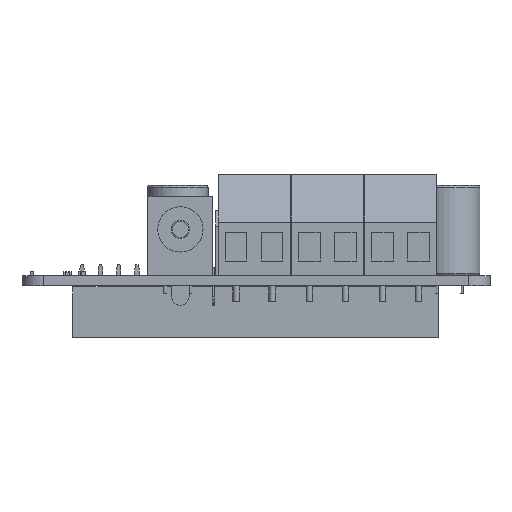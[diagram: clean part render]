
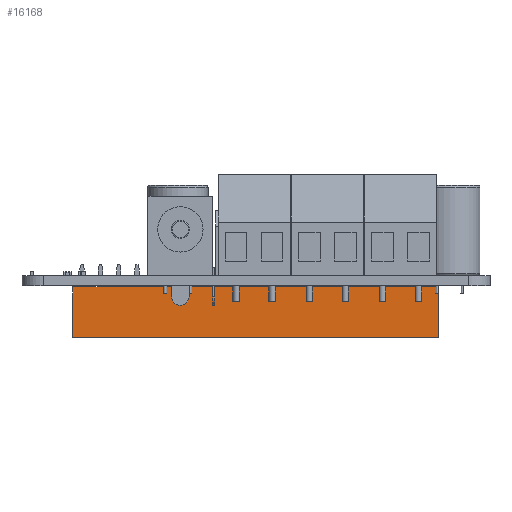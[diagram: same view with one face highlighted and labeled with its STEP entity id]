
A CAD part, front view. The second image highlights one B-rep face of the part: STEP entity #16168.
In plain terms, the highlighted planar face has unit normal (0, -1, 0) as drawn and (-1, 0, 0) by its records, which use the part's own axes.
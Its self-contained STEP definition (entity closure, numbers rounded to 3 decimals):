
#2762 = PLANE('',#2763);
#2763 = AXIS2_PLACEMENT_3D('',#2764,#2765,#2766);
#2764 = CARTESIAN_POINT('',(-3.81,-49.53,0.));
#2765 = DIRECTION('',(0.,1.,0.));
#2766 = DIRECTION('',(1.,0.,0.));
#2790 = PLANE('',#2791);
#2791 = AXIS2_PLACEMENT_3D('',#2792,#2793,#2794);
#2792 = CARTESIAN_POINT('',(1.27,-49.53,7.));
#2793 = DIRECTION('',(-0.,0.,-1.));
#2794 = DIRECTION('',(0.,-1.,-0.));
#2818 = PLANE('',#2819);
#2819 = AXIS2_PLACEMENT_3D('',#2820,#2821,#2822);
#2820 = CARTESIAN_POINT('',(1.27,1.27,0.));
#2821 = DIRECTION('',(0.,-1.,0.));
#2822 = DIRECTION('',(-1.,0.,0.));
#2860 = VERTEX_POINT('',#2861);
#2861 = CARTESIAN_POINT('',(-3.81,-49.53,0.));
#2877 = PLANE('',#2878);
#2878 = AXIS2_PLACEMENT_3D('',#2879,#2880,#2881);
#2879 = CARTESIAN_POINT('',(1.27,-49.53,0.));
#2880 = DIRECTION('',(-0.,0.,-1.));
#2881 = DIRECTION('',(0.,-1.,-0.));
#2889 = EDGE_CURVE('',#2860,#2890,#2892,.T.);
#2890 = VERTEX_POINT('',#2891);
#2891 = CARTESIAN_POINT('',(-3.81,-49.53,7.));
#2892 = SURFACE_CURVE('',#2893,(#2897,#2904),.PCURVE_S1.);
#2893 = LINE('',#2894,#2895);
#2894 = CARTESIAN_POINT('',(-3.81,-49.53,0.));
#2895 = VECTOR('',#2896,1.);
#2896 = DIRECTION('',(0.,0.,1.));
#2897 = PCURVE('',#2762,#2898);
#2898 = DEFINITIONAL_REPRESENTATION('',(#2899),#2903);
#2899 = LINE('',#2900,#2901);
#2900 = CARTESIAN_POINT('',(0.,0.));
#2901 = VECTOR('',#2902,1.);
#2902 = DIRECTION('',(0.,-1.));
#2903 = ( GEOMETRIC_REPRESENTATION_CONTEXT(2) 
PARAMETRIC_REPRESENTATION_CONTEXT() REPRESENTATION_CONTEXT('2D SPACE',''
  ) );
#2904 = PCURVE('',#2905,#2910);
#2905 = PLANE('',#2906);
#2906 = AXIS2_PLACEMENT_3D('',#2907,#2908,#2909);
#2907 = CARTESIAN_POINT('',(-3.81,1.27,0.));
#2908 = DIRECTION('',(1.,0.,0.));
#2909 = DIRECTION('',(0.,-1.,0.));
#2910 = DEFINITIONAL_REPRESENTATION('',(#2911),#2915);
#2911 = LINE('',#2912,#2913);
#2912 = CARTESIAN_POINT('',(50.8,0.));
#2913 = VECTOR('',#2914,1.);
#2914 = DIRECTION('',(0.,-1.));
#2915 = ( GEOMETRIC_REPRESENTATION_CONTEXT(2) 
PARAMETRIC_REPRESENTATION_CONTEXT() REPRESENTATION_CONTEXT('2D SPACE',''
  ) );
#3072 = VERTEX_POINT('',#3073);
#3073 = CARTESIAN_POINT('',(-3.81,1.27,7.));
#3094 = EDGE_CURVE('',#3095,#3072,#3097,.T.);
#3095 = VERTEX_POINT('',#3096);
#3096 = CARTESIAN_POINT('',(-3.81,1.27,0.));
#3097 = SURFACE_CURVE('',#3098,(#3102,#3109),.PCURVE_S1.);
#3098 = LINE('',#3099,#3100);
#3099 = CARTESIAN_POINT('',(-3.81,1.27,0.));
#3100 = VECTOR('',#3101,1.);
#3101 = DIRECTION('',(0.,0.,1.));
#3102 = PCURVE('',#2818,#3103);
#3103 = DEFINITIONAL_REPRESENTATION('',(#3104),#3108);
#3104 = LINE('',#3105,#3106);
#3105 = CARTESIAN_POINT('',(5.08,0.));
#3106 = VECTOR('',#3107,1.);
#3107 = DIRECTION('',(0.,-1.));
#3108 = ( GEOMETRIC_REPRESENTATION_CONTEXT(2) 
PARAMETRIC_REPRESENTATION_CONTEXT() REPRESENTATION_CONTEXT('2D SPACE',''
  ) );
#3109 = PCURVE('',#2905,#3110);
#3110 = DEFINITIONAL_REPRESENTATION('',(#3111),#3115);
#3111 = LINE('',#3112,#3113);
#3112 = CARTESIAN_POINT('',(0.,0.));
#3113 = VECTOR('',#3114,1.);
#3114 = DIRECTION('',(0.,-1.));
#3115 = ( GEOMETRIC_REPRESENTATION_CONTEXT(2) 
PARAMETRIC_REPRESENTATION_CONTEXT() REPRESENTATION_CONTEXT('2D SPACE',''
  ) );
#3239 = EDGE_CURVE('',#3072,#2890,#3240,.T.);
#3240 = SURFACE_CURVE('',#3241,(#3245,#3252),.PCURVE_S1.);
#3241 = LINE('',#3242,#3243);
#3242 = CARTESIAN_POINT('',(-3.81,1.27,7.));
#3243 = VECTOR('',#3244,1.);
#3244 = DIRECTION('',(0.,-1.,0.));
#3245 = PCURVE('',#2790,#3246);
#3246 = DEFINITIONAL_REPRESENTATION('',(#3247),#3251);
#3247 = LINE('',#3248,#3249);
#3248 = CARTESIAN_POINT('',(-50.8,5.08));
#3249 = VECTOR('',#3250,1.);
#3250 = DIRECTION('',(1.,0.));
#3251 = ( GEOMETRIC_REPRESENTATION_CONTEXT(2) 
PARAMETRIC_REPRESENTATION_CONTEXT() REPRESENTATION_CONTEXT('2D SPACE',''
  ) );
#3252 = PCURVE('',#2905,#3253);
#3253 = DEFINITIONAL_REPRESENTATION('',(#3254),#3258);
#3254 = LINE('',#3255,#3256);
#3255 = CARTESIAN_POINT('',(0.,-7.));
#3256 = VECTOR('',#3257,1.);
#3257 = DIRECTION('',(1.,0.));
#3258 = ( GEOMETRIC_REPRESENTATION_CONTEXT(2) 
PARAMETRIC_REPRESENTATION_CONTEXT() REPRESENTATION_CONTEXT('2D SPACE',''
  ) );
#7846 = EDGE_CURVE('',#3095,#2860,#7847,.T.);
#7847 = SURFACE_CURVE('',#7848,(#7852,#7859),.PCURVE_S1.);
#7848 = LINE('',#7849,#7850);
#7849 = CARTESIAN_POINT('',(-3.81,1.27,0.));
#7850 = VECTOR('',#7851,1.);
#7851 = DIRECTION('',(0.,-1.,0.));
#7852 = PCURVE('',#2877,#7853);
#7853 = DEFINITIONAL_REPRESENTATION('',(#7854),#7858);
#7854 = LINE('',#7855,#7856);
#7855 = CARTESIAN_POINT('',(-50.8,5.08));
#7856 = VECTOR('',#7857,1.);
#7857 = DIRECTION('',(1.,0.));
#7858 = ( GEOMETRIC_REPRESENTATION_CONTEXT(2) 
PARAMETRIC_REPRESENTATION_CONTEXT() REPRESENTATION_CONTEXT('2D SPACE',''
  ) );
#7859 = PCURVE('',#2905,#7860);
#7860 = DEFINITIONAL_REPRESENTATION('',(#7861),#7865);
#7861 = LINE('',#7862,#7863);
#7862 = CARTESIAN_POINT('',(0.,0.));
#7863 = VECTOR('',#7864,1.);
#7864 = DIRECTION('',(1.,0.));
#7865 = ( GEOMETRIC_REPRESENTATION_CONTEXT(2) 
PARAMETRIC_REPRESENTATION_CONTEXT() REPRESENTATION_CONTEXT('2D SPACE',''
  ) );
#16168 = ADVANCED_FACE('',(#16169),#2905,.F.);
#16169 = FACE_BOUND('',#16170,.F.);
#16170 = EDGE_LOOP('',(#16171,#16172,#16173,#16174));
#16171 = ORIENTED_EDGE('',*,*,#3094,.T.);
#16172 = ORIENTED_EDGE('',*,*,#3239,.T.);
#16173 = ORIENTED_EDGE('',*,*,#2889,.F.);
#16174 = ORIENTED_EDGE('',*,*,#7846,.F.);
